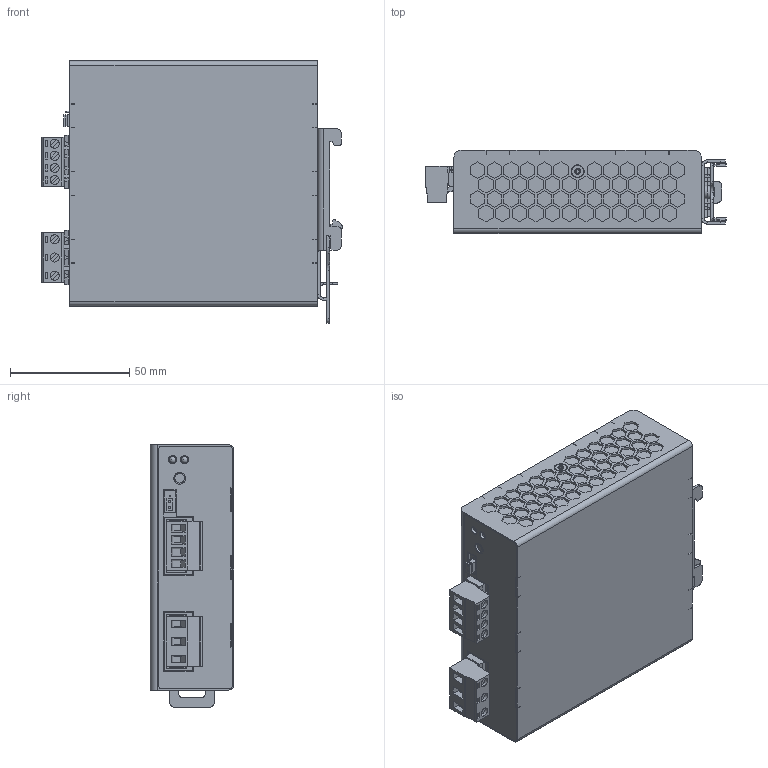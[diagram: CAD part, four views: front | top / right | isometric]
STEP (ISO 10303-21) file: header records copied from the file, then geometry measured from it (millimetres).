
FILE_DESCRIPTION (( 'STEP AP214' ), '1' );
FILE_NAME ('NPSM121_3D_light.STEP', '2016-04-26T10:33:05', ( 'miky' ), ( 'Microsoft' ), 'SwSTEP 2.0', 'SolidWorks 2014', '' );
FILE_SCHEMA (( 'AUTOMOTIVE_DESIGN' ));
Length unit declared in the file: millimetre
Products named in the file (1): NPSM121_3D_light
Bounding box: 126.4 x 35 x 110.15 mm (x, y, z)
Volume: 380886.7 mm3; surface area: 47544 mm2
Topology: 1 solids, 13 shells, 1953 faces, 5244 edges, 3427 vertices
Faces by surface type: plane 1479, cylinder 399, cone 61, torus 8, bspline 4, sphere 2
Entity records: 79533 total; most frequent: CARTESIAN_POINT 11802, ORIENTED_EDGE 10476, DIRECTION 10039, EDGE_CURVE 5238, VECTOR 4067, LINE 4067, VERTEX_POINT 3423, AXIS2_PLACEMENT_3D 2986
